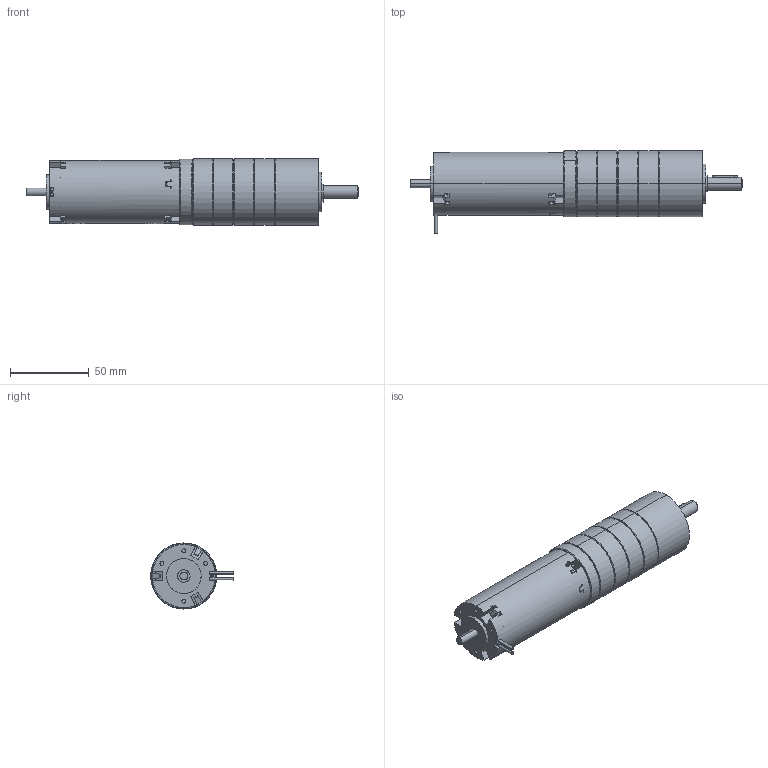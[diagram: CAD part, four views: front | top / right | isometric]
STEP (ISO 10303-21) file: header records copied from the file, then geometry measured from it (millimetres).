
FILE_DESCRIPTION (( 'STEP AP214' ), '1' );
FILE_NAME ('1.13.049_+_PM42-4etages.STEP', '2013-07-18T14:52:57', ( '' ), ( '' ), 'SwSTEP 2.0', 'SolidWorks 2013', '' );
FILE_SCHEMA (( 'AUTOMOTIVE_DESIGN' ));
Length unit declared in the file: millimetre
Products named in the file (18): DIN998_PS_8X14X1_6; D625-608-2RS_5; 8007595_LAGERFLANSCH_5; 1.13.049_+_PM42-4etages; 1.13.049.401_3; D912_M3X8_5; SCHRAUBE_1241978_12; 8006286_MOTORRITZEL_Z17_2; 8007579_ANLAUFSCHEIBE_Z17_1ST_1; 1210329_1; P8209_8007589_ZAHNKRANZ_Z46_5; 8007606_DICHTRING_5; 3X3X16_D6885A_6; D471_8X0_8_6; 8001316_ABTRIEB_LK4_KPL_5; 8001305_LAGERBOLZEN_6; VBZ_K7841_ABTRIEB_AF0_6
Assembly tree (32 placements, depth 3):
  1.13.049_+_PM42-4etages
    8007595_LAGERFLANSCH_5
    D625-608-2RS_5  x2
    DIN998_PS_8X14X1_6  x2
    8001316_ABTRIEB_LK4_KPL_5
      VBZ_K7841_ABTRIEB_AF0_6
      8001305_LAGERBOLZEN_6  x3
    D471_8X0_8_6
    3X3X16_D6885A_6
    8007606_DICHTRING_5  x5
    P8209_8007589_ZAHNKRANZ_Z46_5  x4
    1210329_1
    8007579_ANLAUFSCHEIBE_Z17_1ST_1
    8006286_MOTORRITZEL_Z17_2
    SCHRAUBE_1241978_12  x4
    D912_M3X8_5  x2
    1.13.049.401_3
      1.13.049.401_3
Bounding box: 210.75 x 52.44 x 42 mm (x, y, z)
Volume: 45231.1 mm3; surface area: 83902.7 mm2
Topology: 24 solids, 55 shells, 1880 faces, 5250 edges, 3439 vertices
Faces by surface type: cylinder 895, plane 727, cone 153, bspline 105
Entity records: 44829 total; most frequent: CARTESIAN_POINT 12600, ORIENTED_EDGE 5823, DIRECTION 5485, EDGE_CURVE 2944, AXIS2_PLACEMENT_3D 2011, VERTEX_POINT 1933, VECTOR 1463, LINE 1463
